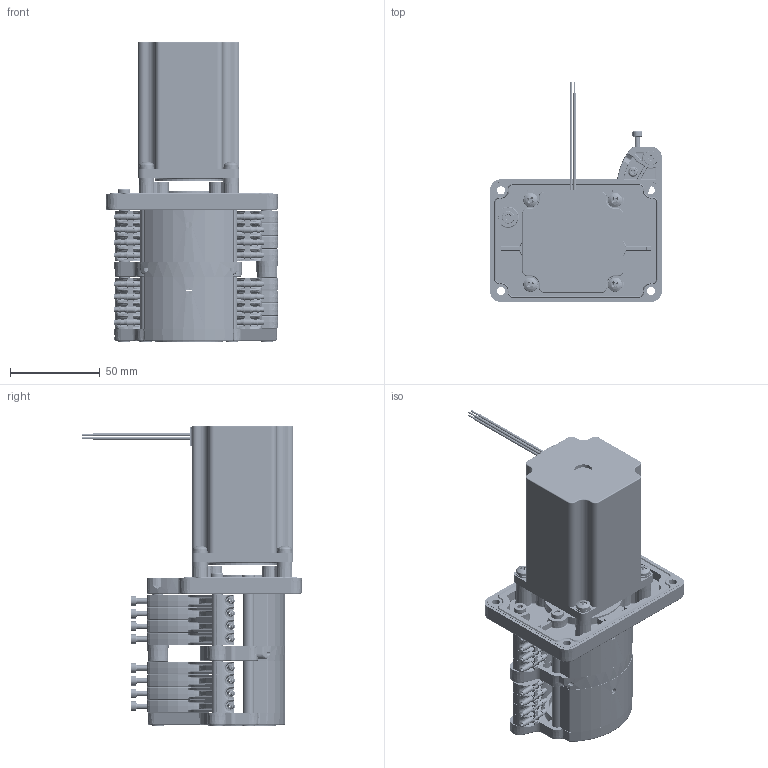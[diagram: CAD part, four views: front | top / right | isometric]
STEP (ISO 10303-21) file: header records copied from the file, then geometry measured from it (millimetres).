
FILE_DESCRIPTION (( 'STEP AP214' ), '1' );
FILE_NAME ('Assy_6K6002_NC_R00.STEP', '2026-09-24T12:46:42', ( '' ), ( '' ), 'SwSTEP 2.0', 'SolidWorks 2021', '' );
FILE_SCHEMA (( 'AUTOMOTIVE_DESIGN' ));
Length unit declared in the file: millimetre
Products named in the file (1): Assy_6K6002_NC_R00
Bounding box: 95.89 x 122.36 x 167.5 mm (x, y, z)
Volume: 351234.9 mm3; surface area: 133094.6 mm2
Topology: 17 solids, 17 shells, 4801 faces, 11597 edges, 6797 vertices
Faces by surface type: plane 1517, cylinder 1237, bspline 937, cone 551, torus 384, sphere 175
Full cylindrical faces by diameter (mm): 1 x4, 1.6 x4, 1.8 x16, 2.4 x2, 2.5 x1, 3 x16, 3.2 x4, 4.5 x4, 5 x8, 5.5 x8, 6.05 x6, 6.1 x10, 7 x7, 7.5 x4, 7.96 x1, 8 x4, 8.55 x8, 10 x2, 10.5 x1, 24.168 x1, 38.1 x1
Entity records: 171232 total; most frequent: CARTESIAN_POINT 72106, ORIENTED_EDGE 22114, DIRECTION 18431, EDGE_CURVE 11057, AXIS2_PLACEMENT_3D 7119, VERTEX_POINT 6694, EDGE_LOOP 5273, FACE_OUTER_BOUND 4956
